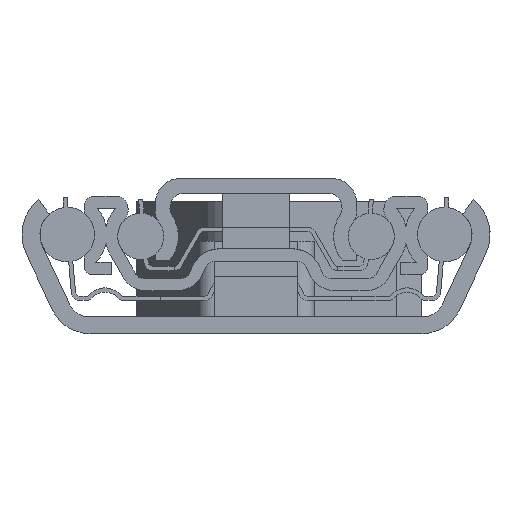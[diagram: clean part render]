
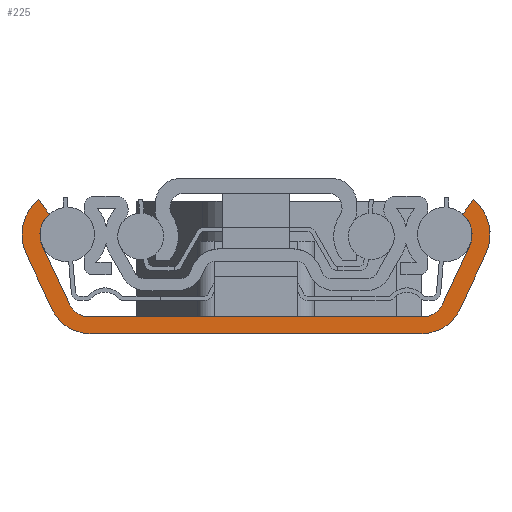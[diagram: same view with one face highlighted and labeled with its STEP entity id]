
A CAD part, left-side view. The second image highlights one B-rep face of the part: STEP entity #225.
In plain terms, the highlighted planar face has unit normal (-1, 0, 0).
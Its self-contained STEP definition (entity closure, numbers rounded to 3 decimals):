
#225 = ADVANCED_FACE( '', ( #580 ), #581, .F. );
#580 = FACE_OUTER_BOUND( '', #1273, .T. );
#581 = PLANE( '', #1274 );
#1273 = EDGE_LOOP( '', ( #2090, #2091, #2092, #2093, #2094, #2095, #2096, #2097, #2098, #2099, #2100, #2101, #2102, #2103, #2104, #2105 ) );
#1274 = AXIS2_PLACEMENT_3D( '', #2106, #2107, #2108 );
#2090 = ORIENTED_EDGE( '', *, *, #4815, .F. );
#2091 = ORIENTED_EDGE( '', *, *, #4824, .T. );
#2092 = ORIENTED_EDGE( '', *, *, #4821, .F. );
#2093 = ORIENTED_EDGE( '', *, *, #4818, .T. );
#2094 = ORIENTED_EDGE( '', *, *, #4766, .F. );
#2095 = ORIENTED_EDGE( '', *, *, #4786, .T. );
#2096 = ORIENTED_EDGE( '', *, *, #4789, .F. );
#2097 = ORIENTED_EDGE( '', *, *, #4792, .T. );
#2098 = ORIENTED_EDGE( '', *, *, #4795, .F. );
#2099 = ORIENTED_EDGE( '', *, *, #4798, .F. );
#2100 = ORIENTED_EDGE( '', *, *, #4801, .F. );
#2101 = ORIENTED_EDGE( '', *, *, #4804, .F. );
#2102 = ORIENTED_EDGE( '', *, *, #4779, .F. );
#2103 = ORIENTED_EDGE( '', *, *, #4806, .F. );
#2104 = ORIENTED_EDGE( '', *, *, #4809, .F. );
#2105 = ORIENTED_EDGE( '', *, *, #4812, .F. );
#2106 = CARTESIAN_POINT( '', ( 0., -22.5, 11.8 ) );
#2107 = DIRECTION( '', ( 1., 0., 0. ) );
#2108 = DIRECTION( '', ( 0., 0., -1. ) );
#4766 = EDGE_CURVE( '', #5725, #5726, #5727, .T. );
#4779 = EDGE_CURVE( '', #5749, #5750, #5751, .T. );
#4786 = EDGE_CURVE( '', #5725, #5762, #5763, .T. );
#4789 = EDGE_CURVE( '', #5767, #5762, #5768, .T. );
#4792 = EDGE_CURVE( '', #5767, #5772, #5773, .T. );
#4795 = EDGE_CURVE( '', #5777, #5772, #5778, .T. );
#4798 = EDGE_CURVE( '', #5782, #5777, #5783, .T. );
#4801 = EDGE_CURVE( '', #5787, #5782, #5788, .T. );
#4804 = EDGE_CURVE( '', #5750, #5787, #5792, .T. );
#4806 = EDGE_CURVE( '', #5794, #5749, #5795, .T. );
#4809 = EDGE_CURVE( '', #5799, #5794, #5800, .T. );
#4812 = EDGE_CURVE( '', #5804, #5799, #5805, .T. );
#4815 = EDGE_CURVE( '', #5809, #5804, #5810, .T. );
#4818 = EDGE_CURVE( '', #5814, #5726, #5815, .T. );
#4821 = EDGE_CURVE( '', #5814, #5819, #5820, .T. );
#4824 = EDGE_CURVE( '', #5809, #5819, #5824, .T. );
#5725 = VERTEX_POINT( '', #7295 );
#5726 = VERTEX_POINT( '', #7296 );
#5727 = LINE( '', #7297, #7298 );
#5749 = VERTEX_POINT( '', #7328 );
#5750 = VERTEX_POINT( '', #7329 );
#5751 = LINE( '', #7330, #7331 );
#5762 = VERTEX_POINT( '', #7348 );
#5763 = CIRCLE( '', #7349, 2.5 );
#5767 = VERTEX_POINT( '', #7354 );
#5768 = LINE( '', #7355, #7356 );
#5772 = VERTEX_POINT( '', #7362 );
#5773 = CIRCLE( '', #7363, 3.25 );
#5777 = VERTEX_POINT( '', #7368 );
#5778 = LINE( '', #7369, #7370 );
#5782 = VERTEX_POINT( '', #7376 );
#5783 = CIRCLE( '', #7377, 5.4 );
#5787 = VERTEX_POINT( '', #7382 );
#5788 = LINE( '', #7383, #7384 );
#5792 = CIRCLE( '', #7390, 5. );
#5794 = VERTEX_POINT( '', #7392 );
#5795 = CIRCLE( '', #7393, 5. );
#5799 = VERTEX_POINT( '', #7398 );
#5800 = LINE( '', #7399, #7400 );
#5804 = VERTEX_POINT( '', #7406 );
#5805 = CIRCLE( '', #7407, 5.4 );
#5809 = VERTEX_POINT( '', #7412 );
#5810 = LINE( '', #7413, #7414 );
#5814 = VERTEX_POINT( '', #7420 );
#5815 = CIRCLE( '', #7421, 2.5 );
#5819 = VERTEX_POINT( '', #7426 );
#5820 = LINE( '', #7427, #7428 );
#5824 = CIRCLE( '', #7434, 3.25 );
#7295 = CARTESIAN_POINT( '', ( 0., 19.923, 2. ) );
#7296 = CARTESIAN_POINT( '', ( 0., -19.923, 2. ) );
#7297 = CARTESIAN_POINT( '', ( 0., 19.923, 2. ) );
#7298 = VECTOR( '', #9555, 1000. );
#7328 = CARTESIAN_POINT( '', ( 0., -19.77, 0. ) );
#7329 = CARTESIAN_POINT( '', ( 0., 19.77, 0. ) );
#7330 = CARTESIAN_POINT( '', ( 0., -19.77, 0. ) );
#7331 = VECTOR( '', #9576, 1000. );
#7348 = CARTESIAN_POINT( '', ( 0., 22.189, 3.443 ) );
#7349 = AXIS2_PLACEMENT_3D( '', #9583, #9584, #9585 );
#7354 = CARTESIAN_POINT( '', ( 0., 25.445, 10.426 ) );
#7355 = CARTESIAN_POINT( '', ( 0., 25.445, 10.426 ) );
#7356 = VECTOR( '', #9590, 1000. );
#7362 = CARTESIAN_POINT( '', ( 0., 24.656, 14.232 ) );
#7363 = AXIS2_PLACEMENT_3D( '', #9593, #9594, #9595 );
#7368 = CARTESIAN_POINT( '', ( 0., 25.894, 16. ) );
#7369 = CARTESIAN_POINT( '', ( 0., 25.894, 16. ) );
#7370 = VECTOR( '', #9600, 1000. );
#7376 = CARTESIAN_POINT( '', ( 0., 27.394, 9.518 ) );
#7377 = AXIS2_PLACEMENT_3D( '', #9603, #9604, #9605 );
#7382 = CARTESIAN_POINT( '', ( 0., 24.302, 2.887 ) );
#7383 = CARTESIAN_POINT( '', ( 0., 24.302, 2.887 ) );
#7384 = VECTOR( '', #9610, 1000. );
#7390 = AXIS2_PLACEMENT_3D( '', #9613, #9614, #9615 );
#7392 = CARTESIAN_POINT( '', ( 0., -24.302, 2.887 ) );
#7393 = AXIS2_PLACEMENT_3D( '', #9619, #9620, #9621 );
#7398 = CARTESIAN_POINT( '', ( 0., -27.394, 9.518 ) );
#7399 = CARTESIAN_POINT( '', ( 0., -27.394, 9.518 ) );
#7400 = VECTOR( '', #9626, 1000. );
#7406 = CARTESIAN_POINT( '', ( 0., -25.894, 16. ) );
#7407 = AXIS2_PLACEMENT_3D( '', #9629, #9630, #9631 );
#7412 = CARTESIAN_POINT( '', ( 0., -24.656, 14.232 ) );
#7413 = CARTESIAN_POINT( '', ( 0., -24.656, 14.232 ) );
#7414 = VECTOR( '', #9636, 1000. );
#7420 = CARTESIAN_POINT( '', ( 0., -22.189, 3.443 ) );
#7421 = AXIS2_PLACEMENT_3D( '', #9639, #9640, #9641 );
#7426 = CARTESIAN_POINT( '', ( 0., -25.445, 10.426 ) );
#7427 = CARTESIAN_POINT( '', ( 0., -22.189, 3.443 ) );
#7428 = VECTOR( '', #9646, 1000. );
#7434 = AXIS2_PLACEMENT_3D( '', #9649, #9650, #9651 );
#9555 = DIRECTION( '', ( 0., -1., 0. ) );
#9576 = DIRECTION( '', ( 0., 1., 0. ) );
#9583 = CARTESIAN_POINT( '', ( 0., 19.923, 4.5 ) );
#9584 = DIRECTION( '', ( 1., 0., 0. ) );
#9585 = DIRECTION( '', ( 0., 0., -1. ) );
#9590 = DIRECTION( '', ( 0., -0.423, -0.906 ) );
#9593 = CARTESIAN_POINT( '', ( 0., 22.5, 11.8 ) );
#9594 = DIRECTION( '', ( 1., 0., 0. ) );
#9595 = DIRECTION( '', ( 0., 0., -1. ) );
#9600 = DIRECTION( '', ( 0., -0.574, -0.819 ) );
#9603 = CARTESIAN_POINT( '', ( 0., 22.5, 11.8 ) );
#9604 = DIRECTION( '', ( 1., 0., 0. ) );
#9605 = DIRECTION( '', ( 0., 0., -1. ) );
#9610 = DIRECTION( '', ( 0., 0.423, 0.906 ) );
#9613 = CARTESIAN_POINT( '', ( 0., 19.77, 5. ) );
#9614 = DIRECTION( '', ( 1., 0., 0. ) );
#9615 = DIRECTION( '', ( 0., 0., -1. ) );
#9619 = CARTESIAN_POINT( '', ( 0., -19.77, 5. ) );
#9620 = DIRECTION( '', ( 1., 0., 0. ) );
#9621 = DIRECTION( '', ( 0., 0., -1. ) );
#9626 = DIRECTION( '', ( 0., 0.423, -0.906 ) );
#9629 = CARTESIAN_POINT( '', ( 0., -22.5, 11.8 ) );
#9630 = DIRECTION( '', ( 1., 0., 0. ) );
#9631 = DIRECTION( '', ( 0., 0., -1. ) );
#9636 = DIRECTION( '', ( 0., -0.574, 0.819 ) );
#9639 = CARTESIAN_POINT( '', ( 0., -19.923, 4.5 ) );
#9640 = DIRECTION( '', ( 1., 0., 0. ) );
#9641 = DIRECTION( '', ( 0., 0., -1. ) );
#9646 = DIRECTION( '', ( 0., -0.423, 0.906 ) );
#9649 = CARTESIAN_POINT( '', ( 0., -22.5, 11.8 ) );
#9650 = DIRECTION( '', ( 1., 0., 0. ) );
#9651 = DIRECTION( '', ( 0., 0., -1. ) );
